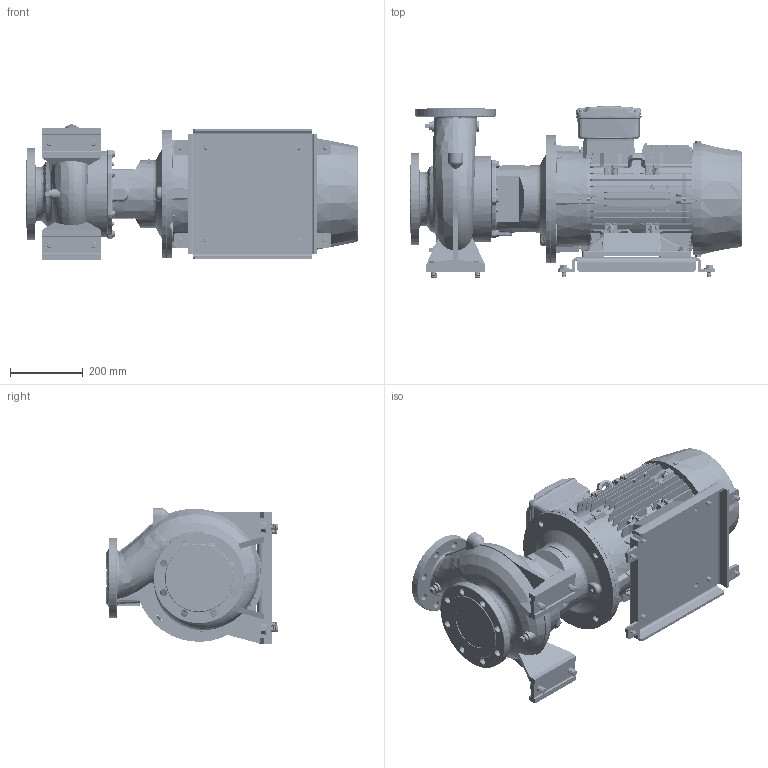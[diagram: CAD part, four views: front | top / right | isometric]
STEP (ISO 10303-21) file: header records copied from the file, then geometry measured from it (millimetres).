
FILE_DESCRIPTION (( 'STEP AP214' ), '1' );
FILE_NAME ('GSD2 100-160_15.0 & 18.5_(160ML)_W21.STEP', '2026-07-08T02:55:42', ( '' ), ( '' ), 'SwSTEP 2.0', 'SolidWorks 2024', '' );
FILE_SCHEMA (( 'AUTOMOTIVE_DESIGN' ));
Length unit declared in the file: millimetre
Products named in the file (12): Parametric bolt and washer_SFT-A297B; Parametric bolt_SFT-A303B; 160M_L_ALIE3_W21T_B35; 100-160-160M_L_ﾃﾞﾌｫﾙﾄ; GSD2  100-160_15.0 & 18.5_(160ML)_W21; CGS11-5252; Parametric bolt and washer_SFT-A303B; Parametric Flat Washer_M16; Parametric bolt_SFT-A297B; Parametric Flat Washer_M12; Parametric bolt_SFT-A353B; Parametric bolt and washer_SFT-A353B
Assembly tree (21 placements, depth 3):
  GSD2  100-160_15.0 & 18.5_(160ML)_W21
    100-160-160M_L_ﾃﾞﾌｫﾙﾄ
    Parametric bolt and washer_SFT-A353B  x4
      Parametric bolt_SFT-A353B
      Parametric Flat Washer_M16
    CGS11-5252
    Parametric bolt and washer_SFT-A297B  x4
      Parametric bolt_SFT-A297B
      Parametric Flat Washer_M12
    Parametric bolt and washer_SFT-A303B  x4
      Parametric bolt_SFT-A303B
      Parametric Flat Washer_M12
    160M_L_ALIE3_W21T_B35
Bounding box: 910.3 x 470.53 x 371 mm (x, y, z)
Volume: 51636453.7 mm3; surface area: 3295992.3 mm2
Topology: 56 solids, 62 shells, 6277 faces, 16246 edges, 10513 vertices
Faces by surface type: plane 3717, cylinder 1272, cone 545, bspline 506, torus 221, sphere 16
Entity records: 254268 total; most frequent: CARTESIAN_POINT 120488, ORIENTED_EDGE 29468, DIRECTION 24550, EDGE_CURVE 14734, VERTEX_POINT 9544, LINE 9382, VECTOR 9382, AXIS2_PLACEMENT_3D 7584
